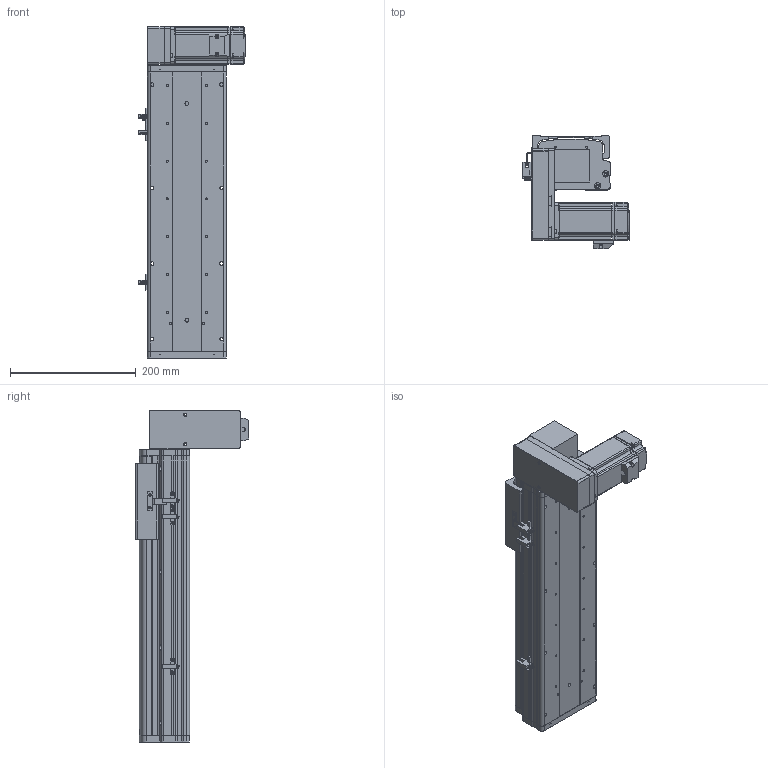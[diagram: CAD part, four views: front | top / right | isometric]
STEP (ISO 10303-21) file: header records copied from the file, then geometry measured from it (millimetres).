
FILE_DESCRIPTION (( 'STEP AP214' ), '1' );
FILE_NAME ('KSD125B-S250-MRD-CM.STEP', '2017-10-21T05:58:37', ( '微软用户' ), ( '微软中国' ), 'SwSTEP 2.0', 'SolidWorks 2014', '' );
FILE_SCHEMA (( 'AUTOMOTIVE_DESIGN' ));
Length unit declared in the file: millimetre
Products named in the file (17): U倰嫖萇EEㄜSX672; KSD125模组同步带-防撞垫1; 100宽马达安装板同步带右; 前端板-125宽模组同步带; 125模组同步带-尾端板1; KSD125模组同步带-滑动座1; KSD125B-S250-MRD-CM; 悵誘欶奻狟殏; HTPA30S3M150_A_H6_a佪裝蚚; HTPA30S3M150_A_H6_a萇儂蚚; 100宽马达安装板连板上下折丝杆同步带; KSD125模组250行程同步带-防尘盖; 125模组250行程同步带-底板; MHMD042G1CA_2_03; KSD125模组同步带-防撞垫2; 覜茼え68遵圉猾敕; U倰嫖萇假蚾璃
Assembly tree (20 placements, depth 2):
  KSD125B-S250-MRD-CM
    KSD125模组同步带-滑动座1
    125模组同步带-尾端板1
    前端板-125宽模组同步带
    100宽马达安装板同步带右
    KSD125模组同步带-防撞垫1
    U倰嫖萇EEㄜSX672  x3
    U倰嫖萇假蚾璃  x3
    覜茼え68遵圉猾敕
    KSD125模组同步带-防撞垫2
    MHMD042G1CA_2_03
    125模组250行程同步带-底板
    KSD125模组250行程同步带-防尘盖
    100宽马达安装板连板上下折丝杆同步带
    HTPA30S3M150_A_H6_a萇儂蚚
    HTPA30S3M150_A_H6_a佪裝蚚
    悵誘欶奻狟殏
Bounding box: 168.7 x 179.5 x 527 mm (x, y, z)
Volume: 1924682.6 mm3; surface area: 689266.3 mm2
Topology: 19 solids, 22 shells, 2203 faces, 6373 edges, 4210 vertices
Faces by surface type: cylinder 1360, plane 716, cone 105, bspline 22
Entity records: 77843 total; most frequent: CARTESIAN_POINT 15411, DIRECTION 12114, ORIENTED_EDGE 11266, EDGE_CURVE 5711, AXIS2_PLACEMENT_3D 4665, VERTEX_POINT 3802, LINE 2784, VECTOR 2784
